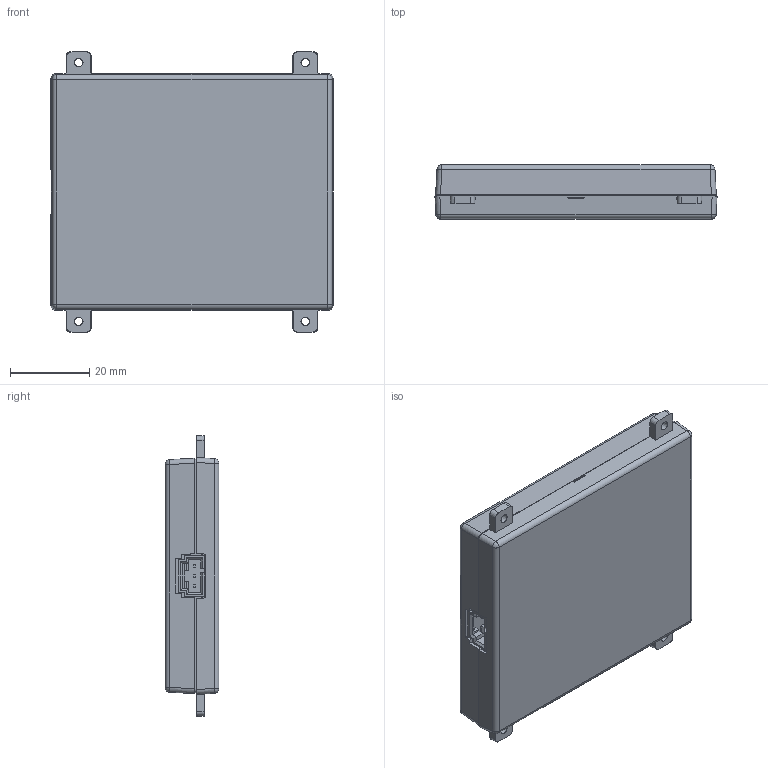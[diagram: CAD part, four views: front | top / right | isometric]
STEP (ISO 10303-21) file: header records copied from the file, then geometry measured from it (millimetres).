
FILE_DESCRIPTION(/* description */ ('Alibre Inc.'),/* implementation_level */ '2;1');
FILE_NAME(/* name */ 'export0',/* time_stamp */ '2018-08-09T08:42:55-06:00',/* author */ (''),/* organization */ (''),/* preprocessor_version */ 'ST-DEVELOPER v17',/* originating_system */ 'Alibre',/* authorisation */ '');
FILE_SCHEMA (('CONFIG_CONTROL_DESIGN'));
Length unit declared in the file: centimetre
Products named in the file (53): ID_1; ID_2; ID_3; ID_4; ID_5; ID_6; ID_7; ID_8; ID_9; ID_10; ID_11; ID_12; ID_13; ID_14; ID_15; ID_16; ID_17; ID_18; ID_19; ID_20; ID_21; ID_22; ID_23; ID_24; ID_25; ID_26; ID_27; ID_28; ID_29; ID_30; ID_31; ID_32; ID_33; ID_34; ID_35; ID_36; ID_37; ID_38; ID_39; ID_40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
Bounding box: 71.12 x 13.6 x 70.82 mm (x, y, z)
Volume: 23117.4 mm3; surface area: 31801.1 mm2
Topology: 63 solids, 63 shells, 1125 faces, 2912 edges, 1917 vertices
Faces by surface type: plane 876, cylinder 215, cone 18, bspline 8, sphere 8
Full cylindrical faces by diameter (mm): 0.711 x47, 2.794 x2, 3.81 x2
Entity records: 32699 total; most frequent: CARTESIAN_POINT 5746, ORIENTED_EDGE 4474, DIRECTION 3636, EDGE_CURVE 2237, VECTOR 1695, LINE 1695, VERTEX_POINT 1479, AXIS2_PLACEMENT_3D 1242
